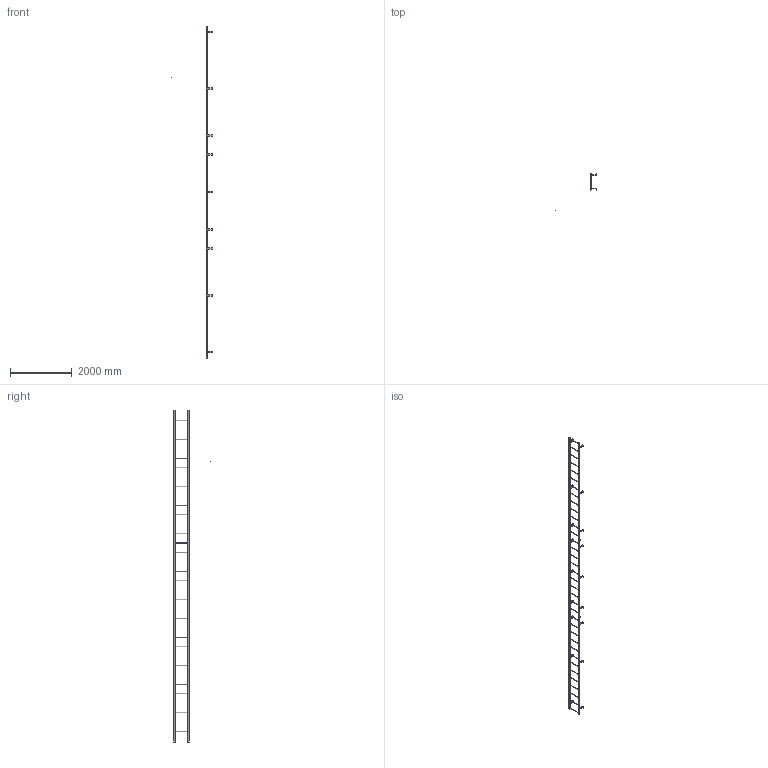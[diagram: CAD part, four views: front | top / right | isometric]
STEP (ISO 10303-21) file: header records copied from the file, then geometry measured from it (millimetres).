
FILE_DESCRIPTION(/* description */ (''),/* implementation_level */ '2;1');
FILE_NAME(/* name */ 'P:\MIKEL & KAREN\3570352 F36S SIMPLIFIED PART.stp',/* time_stamp */ '2018-07-02T16:01:30-04:00',/* author */ ('stephanie'),/* organization */ (''),/* preprocessor_version */ 'ST-DEVELOPER v16.1',/* originating_system */ 'Autodesk Inventor 2016',/* authorisation */ '');
FILE_SCHEMA (('AUTOMOTIVE_DESIGN { 1 0 10303 214 3 1 1 }'));
Length unit declared in the file: centimetre
Products named in the file (1): 3570352 F36S SIMPLIFIED PART
Bounding box: 1332.25 x 1204.31 x 10744.2 mm (x, y, z)
Volume: 18677903.7 mm3; surface area: 5609417.9 mm2
Topology: 39 solids, 39 shells, 533 faces, 1423 edges, 952 vertices
Faces by surface type: plane 312, cylinder 221
Full cylindrical faces by diameter (mm): 0.254 x1, 14.287 x22, 19.05 x36, 22.225 x72
Entity records: 16179 total; most frequent: DIRECTION 2744, CARTESIAN_POINT 2590, ORIENTED_EDGE 2396, EDGE_CURVE 1198, AXIS2_PLACEMENT_3D 1012, VERTEX_POINT 858, EDGE_LOOP 852, LINE 720
